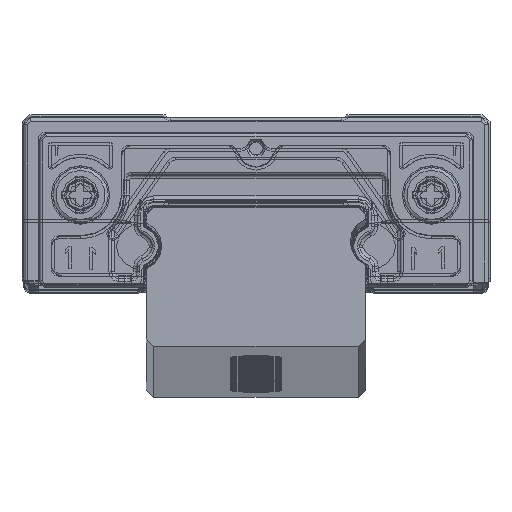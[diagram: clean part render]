
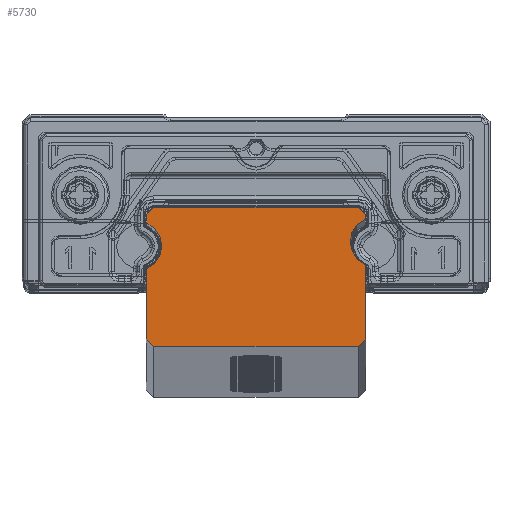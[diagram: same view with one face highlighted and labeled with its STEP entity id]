
A CAD part, top view. The second image highlights one B-rep face of the part: STEP entity #5730.
In plain terms, the highlighted planar face has unit normal (0, 0, 1).
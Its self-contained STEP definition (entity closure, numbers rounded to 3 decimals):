
#521=DIRECTION('',(0.,-1.,0.));
#522=VECTOR('',#521,0.293);
#523=CARTESIAN_POINT('',(7.48,2.,1500.));
#524=LINE('',#523,#522);
#525=CARTESIAN_POINT('',(8.141,0.141,1500.));
#526=DIRECTION('',(0.,0.,1.));
#527=DIRECTION('',(-0.389,0.921,0.));
#528=AXIS2_PLACEMENT_3D('',#525,#526,#527);
#530=CARTESIAN_POINT('',(8.141,0.141,1500.));
#531=DIRECTION('',(0.,0.,1.));
#532=DIRECTION('',(-1.,-0.02,0.));
#533=AXIS2_PLACEMENT_3D('',#530,#531,#532);
#535=DIRECTION('',(0.,-1.,0.));
#536=VECTOR('',#535,5.067);
#537=CARTESIAN_POINT('',(7.5,-1.433,1500.));
#538=LINE('',#537,#536);
#539=DIRECTION('',(-0.707,-0.707,0.));
#540=VECTOR('',#539,0.707);
#541=CARTESIAN_POINT('',(7.5,-6.5,1500.));
#542=LINE('',#541,#540);
#543=DIRECTION('',(-1.,0.,0.));
#544=VECTOR('',#543,14.);
#545=CARTESIAN_POINT('',(7.,-7.,1500.));
#546=LINE('',#545,#544);
#547=DIRECTION('',(-0.707,0.707,0.));
#548=VECTOR('',#547,0.707);
#549=CARTESIAN_POINT('',(-7.,-7.,1500.));
#550=LINE('',#549,#548);
#551=DIRECTION('',(0.,1.,0.));
#552=VECTOR('',#551,4.784);
#553=CARTESIAN_POINT('',(-7.5,-6.5,1500.));
#554=LINE('',#553,#552);
#555=CARTESIAN_POINT('',(-8.141,-0.141,1500.));
#556=DIRECTION('',(0.,0.,1.));
#557=DIRECTION('',(0.377,-0.926,0.));
#558=AXIS2_PLACEMENT_3D('',#555,#556,#557);
#560=CARTESIAN_POINT('',(-8.141,-0.141,1500.));
#561=DIRECTION('',(0.,0.,1.));
#562=DIRECTION('',(1.,0.,0.));
#563=AXIS2_PLACEMENT_3D('',#560,#561,#562);
#565=DIRECTION('',(0.,1.,0.));
#566=VECTOR('',#565,0.575);
#567=CARTESIAN_POINT('',(-7.48,1.425,1500.));
#568=LINE('',#567,#566);
#569=DIRECTION('',(0.707,0.707,0.));
#570=VECTOR('',#569,0.707);
#571=CARTESIAN_POINT('',(-7.48,2.,1500.));
#572=LINE('',#571,#570);
#573=DIRECTION('',(1.,0.,0.));
#574=VECTOR('',#573,13.96);
#575=CARTESIAN_POINT('',(-6.98,2.5,1500.));
#576=LINE('',#575,#574);
#577=DIRECTION('',(0.707,-0.707,0.));
#578=VECTOR('',#577,0.707);
#579=CARTESIAN_POINT('',(6.98,2.5,1500.));
#580=LINE('',#579,#578);
#4164=CARTESIAN_POINT('',(7.,-7.,1500.));
#4166=VERTEX_POINT('',#4164);
#4170=CARTESIAN_POINT('',(-7.,-7.,1500.));
#4171=VERTEX_POINT('',#4170);
#4388=CARTESIAN_POINT('',(-6.98,2.5,1500.));
#4390=VERTEX_POINT('',#4388);
#4394=CARTESIAN_POINT('',(6.98,2.5,1500.));
#4395=VERTEX_POINT('',#4394);
#5168=CARTESIAN_POINT('',(-7.48,2.,1500.));
#5170=VERTEX_POINT('',#5168);
#5173=CARTESIAN_POINT('',(-7.48,1.425,1500.));
#5175=VERTEX_POINT('',#5173);
#5180=CARTESIAN_POINT('',(-6.441,-0.141,1500.));
#5181=VERTEX_POINT('',#5180);
#5182=CARTESIAN_POINT('',(-7.5,-1.716,1500.));
#5183=VERTEX_POINT('',#5182);
#5190=CARTESIAN_POINT('',(-7.5,-6.5,1500.));
#5191=VERTEX_POINT('',#5190);
#5192=CARTESIAN_POINT('',(7.48,2.,1500.));
#5193=CARTESIAN_POINT('',(7.48,1.707,1500.));
#5194=VERTEX_POINT('',#5192);
#5195=VERTEX_POINT('',#5193);
#5196=CARTESIAN_POINT('',(6.442,0.107,1500.));
#5197=VERTEX_POINT('',#5196);
#5198=CARTESIAN_POINT('',(7.5,-1.433,1500.));
#5199=VERTEX_POINT('',#5198);
#5200=CARTESIAN_POINT('',(7.5,-6.5,1500.));
#5201=VERTEX_POINT('',#5200);
#5700=CARTESIAN_POINT('',(0.,0.,1500.));
#5701=DIRECTION('',(0.,0.,1.));
#5702=DIRECTION('',(1.,0.,0.));
#5703=AXIS2_PLACEMENT_3D('',#5700,#5701,#5702);
#5704=PLANE('',#5703);
#5706=ORIENTED_EDGE('',*,*,#5705,.T.);
#5707=ORIENTED_EDGE('',*,*,#5688,.T.);
#5708=ORIENTED_EDGE('',*,*,#5686,.T.);
#5709=ORIENTED_EDGE('',*,*,#5676,.T.);
#5710=ORIENTED_EDGE('',*,*,#5661,.T.);
#5711=ORIENTED_EDGE('',*,*,#5347,.T.);
#5713=ORIENTED_EDGE('',*,*,#5712,.T.);
#5715=ORIENTED_EDGE('',*,*,#5714,.T.);
#5717=ORIENTED_EDGE('',*,*,#5716,.T.);
#5719=ORIENTED_EDGE('',*,*,#5718,.T.);
#5721=ORIENTED_EDGE('',*,*,#5720,.T.);
#5723=ORIENTED_EDGE('',*,*,#5722,.T.);
#5725=ORIENTED_EDGE('',*,*,#5724,.T.);
#5727=ORIENTED_EDGE('',*,*,#5726,.T.);
#5728=EDGE_LOOP('',(#5706,#5707,#5708,#5709,#5710,#5711,#5713,#5715,#5717,#5719,
#5721,#5723,#5725,#5727));
#5729=FACE_OUTER_BOUND('',#5728,.F.);
#5730=ADVANCED_FACE('',(#5729),#5704,.T.);
#529=CIRCLE('',#528,1.7);
#534=CIRCLE('',#533,1.7);
#559=CIRCLE('',#558,1.7);
#564=CIRCLE('',#563,1.7);
#5347=EDGE_CURVE('',#4166,#4171,#546,.T.);
#5661=EDGE_CURVE('',#5201,#4166,#542,.T.);
#5676=EDGE_CURVE('',#5199,#5201,#538,.T.);
#5686=EDGE_CURVE('',#5197,#5199,#534,.T.);
#5688=EDGE_CURVE('',#5195,#5197,#529,.T.);
#5705=EDGE_CURVE('',#5194,#5195,#524,.T.);
#5712=EDGE_CURVE('',#4171,#5191,#550,.T.);
#5714=EDGE_CURVE('',#5191,#5183,#554,.T.);
#5716=EDGE_CURVE('',#5183,#5181,#559,.T.);
#5718=EDGE_CURVE('',#5181,#5175,#564,.T.);
#5720=EDGE_CURVE('',#5175,#5170,#568,.T.);
#5722=EDGE_CURVE('',#5170,#4390,#572,.T.);
#5724=EDGE_CURVE('',#4390,#4395,#576,.T.);
#5726=EDGE_CURVE('',#4395,#5194,#580,.T.);
